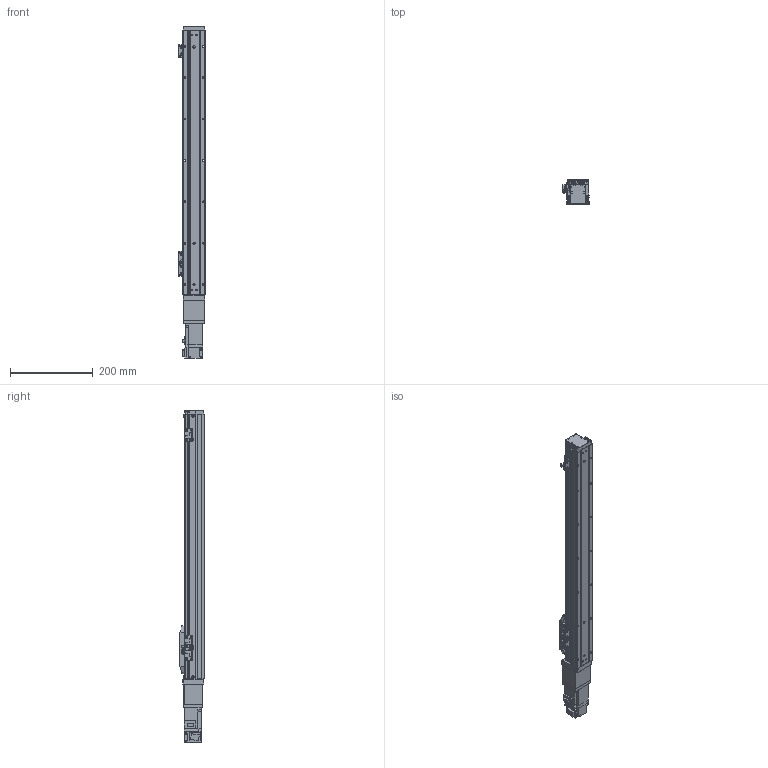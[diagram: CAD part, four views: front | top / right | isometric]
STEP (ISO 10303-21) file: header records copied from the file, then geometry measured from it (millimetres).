
FILE_DESCRIPTION (( 'STEP AP203' ), '1' );
FILE_NAME ('GTH5-500-BC-M10-C4.step', '2022-09-23T00:40:23', ( '微软用户' ), ( '微软中国' ), 'SwSTEP 2.0', 'SolidWorks 2020', '' );
FILE_SCHEMA (( 'CONFIG_CONTROL_DESIGN' ));
Length unit declared in the file: millimetre
Products named in the file (20): GTH5-500-BC-M10-C4; GTH50-003; GTH50-028; GTH50-006; GTH50-013; GTH50-022-1; GTH50-004; GTH50-023; CTHA60-027; GBT 70.3-M3℅6; GBT 70.1-M3℅6; CTHA60-013; BTH-M3X5X6; GBT96.1-2002 3×0.8; CTHA60-006-2_CTHA60-006-1; GTH50-001_500; GTH50-024; HG-KR13; GBT 70.1-M4×16; GBT 70.1-M2.5×6
Assembly tree (60 placements, depth 2):
  GTH5-500-BC-M10-C4
    GTH50-006
    GTH50-004
    GBT 70.3-M3℅6  x6
    BTH-M3X5X6  x8
    GTH50-001_500
    GBT 70.1-M4×16  x8
    GTH50-003
    GTH50-013
    GTH50-023  x3
    GBT 70.1-M3℅6  x12
    GBT96.1-2002 3×0.8  x6
    GTH50-024  x3
    GBT 70.1-M2.5×6  x2
    GTH50-028  x2
    GTH50-022-1
    CTHA60-027
    CTHA60-013
    CTHA60-006-2_CTHA60-006-1
    HG-KR13
Bounding box: 63.8 x 60 x 802.6 mm (x, y, z)
Volume: 1669222.4 mm3; surface area: 272537.2 mm2
Topology: 62 solids, 62 shells, 2049 faces, 4704 edges, 2870 vertices
Faces by surface type: plane 1105, cylinder 543, cone 235, torus 158, sphere 8
Entity records: 34107 total; most frequent: DIRECTION 5507, CARTESIAN_POINT 5391, ORIENTED_EDGE 5094, EDGE_CURVE 2547, AXIS2_PLACEMENT_3D 1892, VECTOR 1723, LINE 1723, VERTEX_POINT 1610
